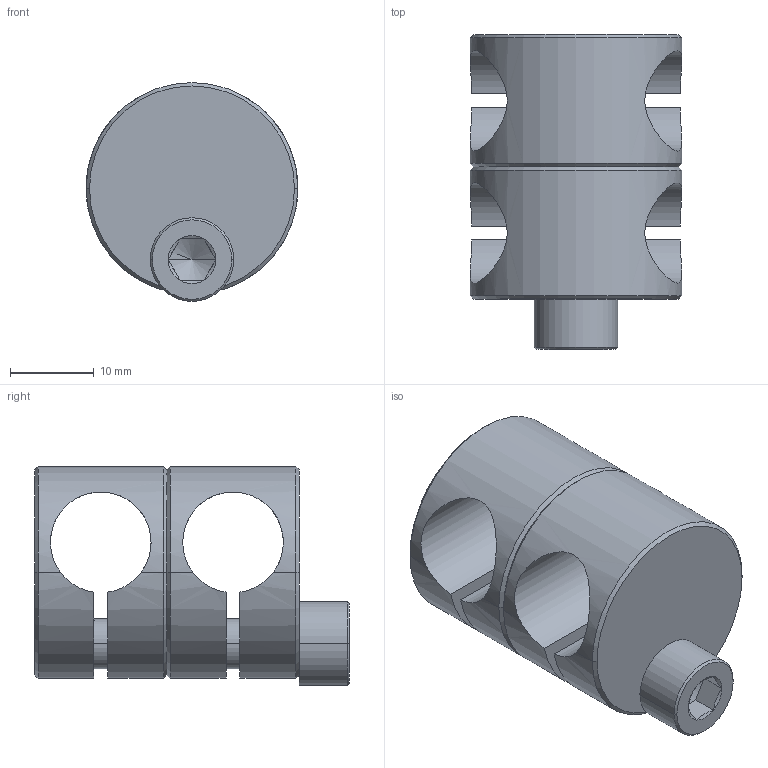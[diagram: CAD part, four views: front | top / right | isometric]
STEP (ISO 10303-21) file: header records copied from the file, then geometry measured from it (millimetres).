
FILE_DESCRIPTION((''),'2;1');
FILE_NAME('CS2_ASM','2020-11-30T',('Administrator'),(''),'CREO PARAMETRIC BY PTC INC, 2015290','CREO PARAMETRIC BY PTC INC, 2015290','');
FILE_SCHEMA(('CONFIG_CONTROL_DESIGN'));
Length unit declared in the file: millimetre
Products named in the file (4): CS2_A1; CS2_A2; M6X30_HM; CS2_ASM
Assembly tree (3 placements, depth 2):
  CS2_ASM
    CS2_A1
    CS2_A2
    M6X30_HM
Bounding box: 25.3 x 37.6 x 26.15 mm (x, y, z)
Volume: 10315.2 mm3; surface area: 7534.2 mm2
Topology: 3 solids, 3 shells, 96 faces, 214 edges, 126 vertices
Faces by surface type: cylinder 31, plane 27, cone 26, bspline 12
Entity records: 4137 total; most frequent: CARTESIAN_POINT 2016, ORIENTED_EDGE 424, DIRECTION 400, EDGE_CURVE 212, AXIS2_PLACEMENT_3D 157, VERTEX_POINT 126, EDGE_LOOP 108, FACE_OUTER_BOUND 96
